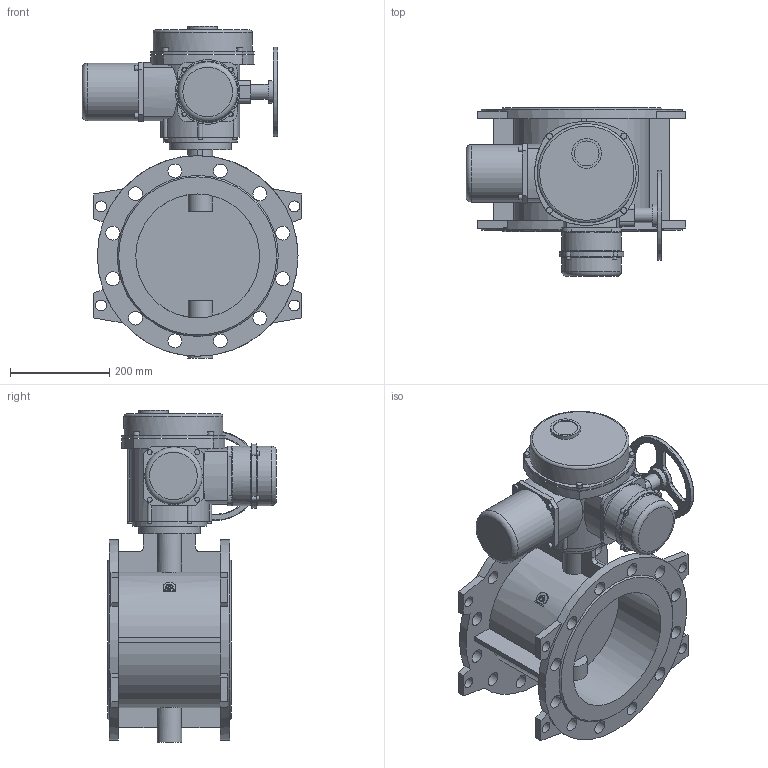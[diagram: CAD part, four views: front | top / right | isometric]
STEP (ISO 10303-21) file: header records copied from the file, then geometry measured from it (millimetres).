
FILE_DESCRIPTION(('STEP AP203'), '1');
FILE_NAME('青蜮铕 023F.Z DN250 PN16_菹_QT.Z_060-120', '', ('UNSPECIFIED'), ('UNSPECIFIED'), 'ASCON STEP Converter 1.6', 'ASCON Math Kernel', '');
FILE_SCHEMA(('CONFIG_CONTROL_DESIGN'));
Length unit declared in the file: millimetre
Bounding box: 443 x 341 x 670 mm (x, y, z)
Volume: 16708013.8 mm3; surface area: 1388410.9 mm2
Topology: 1 solids, 1 shells, 391 faces, 983 edges, 618 vertices
Faces by surface type: cylinder 175, plane 143, torus 47, cone 18, bspline 8
Full cylindrical faces by diameter (mm): 8 x10, 8.376 x4, 10 x4, 10.106 x4, 12 x8, 12.386 x1, 22 x8, 28 x24, 30 x1, 45 x1, 50 x2, 60 x1, 116 x1, 120 x2, 125 x1, 150 x1, 180 x1, 200 x1, 250 x2, 405 x2
Entity records: 17414 total; most frequent: CARTESIAN_POINT 4987, DIRECTION 2037, ORIENTED_EDGE 1722, EDGE_CURVE 861, AXIS2_PLACEMENT_3D 849, VERTEX_POINT 609, EDGE_LOOP 601, CIRCLE 465
